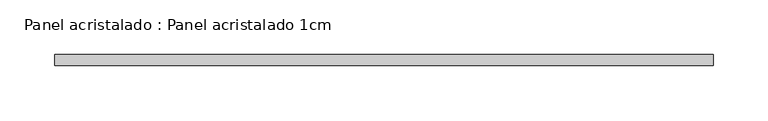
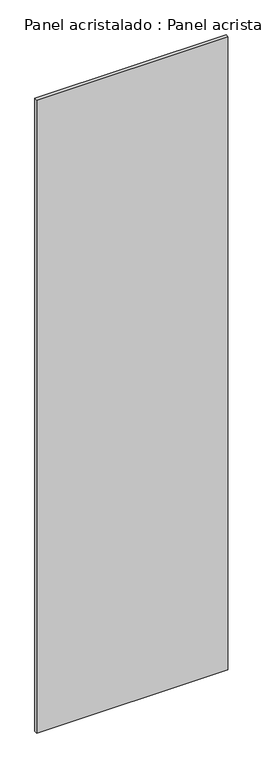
"""IFC4 building model written with IfcOpenShell, lengths in millimetres: plate geometry, Panel acristalado : Panel acristalado 1cm."""

from ifc_helpers import new_model, si_unit, origin, origin_with_axes, place, context, project, spatial, polyline, outline, extrude, source, transform, mapped, element, save


def panel_acristalado_panel_acristalado_1cm_ea30b9a0(model_context):
    return source(origin(), model_context, "Body", "SweptSolid", [
        extrude(outline(polyline([(300.0, 20.0), (-300.0, 20.0), (-300.0, 30.0), (300.0, 30.0), (300.0, 20.0)])), origin_with_axes(), (0.0, 0.0, 1.0), 2100.0),
    ])


if __name__ == "__main__":
    model = new_model("IFC4")
    model_context = context("Model", 3, world=origin())
    ifc_project = project(units=[si_unit("LENGTHUNIT", "METRE", prefix="MILLI")], contexts=[model_context])
    site = spatial("IfcSite", under=ifc_project)
    building = spatial("IfcBuilding", under=site)
    placement = place(None, origin())
    panel_acristalado_panel_acristalado_1cm_shape = panel_acristalado_panel_acristalado_1cm_ea30b9a0(model_context)
    element("IfcPlate", 1, ObjectType="Panel acristalado : Panel acristalado 1cm", at=placement, inside=building, context=model_context, shape_type="MappedRepresentation", body=[
        mapped(panel_acristalado_panel_acristalado_1cm_shape, transform((0.0, 0.0, 0.0), x_axis=(1.0, 0.0, 0.0), y_axis=(0.0, 1.0, 0.0), z_axis=(0.0, 0.0, 1.0))),
    ])
    save(model, "model.ifc")
